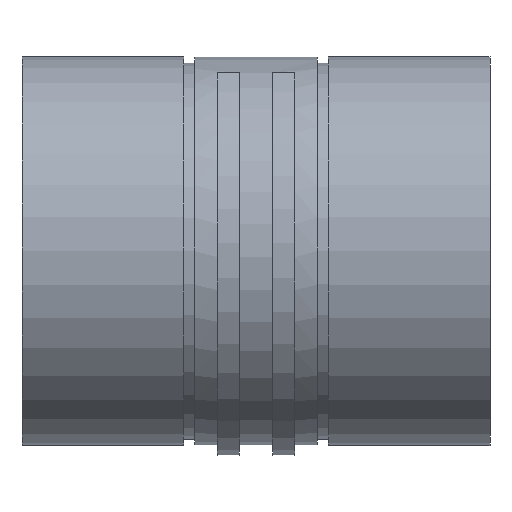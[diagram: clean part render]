
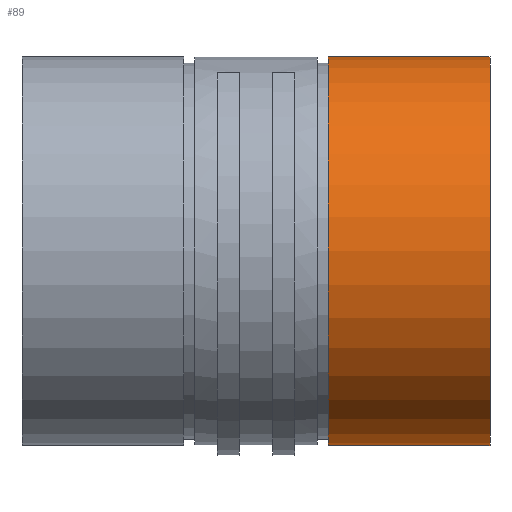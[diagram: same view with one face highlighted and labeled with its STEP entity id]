
A CAD part, front view. The second image highlights one B-rep face of the part: STEP entity #89.
In plain terms, the highlighted cylindrical face has radius 17.45 mm (diameter 34.9 mm), a full revolution.
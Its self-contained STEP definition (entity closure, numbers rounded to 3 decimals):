
#89 = ADVANCED_FACE( '', ( #139, #140 ), #141, .T. );
#139 = FACE_OUTER_BOUND( '', #209, .T. );
#140 = FACE_OUTER_BOUND( '', #210, .T. );
#141 = CYLINDRICAL_SURFACE( '', #211, 17.45 );
#209 = EDGE_LOOP( '', ( #334 ) );
#210 = EDGE_LOOP( '', ( #335 ) );
#211 = AXIS2_PLACEMENT_3D( '', #336, #337, #338 );
#334 = ORIENTED_EDGE( '', *, *, #432, .T. );
#335 = ORIENTED_EDGE( '', *, *, #431, .F. );
#336 = CARTESIAN_POINT( '', ( -60., 0., 0. ) );
#337 = DIRECTION( '', ( 1., 0., 0. ) );
#338 = DIRECTION( '', ( 0., 0., 1. ) );
#431 = EDGE_CURVE( '', #494, #494, #495, .T. );
#432 = EDGE_CURVE( '', #496, #496, #497, .T. );
#494 = VERTEX_POINT( '', #582 );
#495 = CIRCLE( '', #583, 17.45 );
#496 = VERTEX_POINT( '', #584 );
#497 = CIRCLE( '', #585, 17.45 );
#582 = CARTESIAN_POINT( '', ( 6.5, 0., 17.45 ) );
#583 = AXIS2_PLACEMENT_3D( '', #661, #662, #663 );
#584 = CARTESIAN_POINT( '', ( 21., 0., 17.45 ) );
#585 = AXIS2_PLACEMENT_3D( '', #664, #665, #666 );
#661 = CARTESIAN_POINT( '', ( 6.5, 0., 0. ) );
#662 = DIRECTION( '', ( -1., 0., 0. ) );
#663 = DIRECTION( '', ( 0., 0., 1. ) );
#664 = CARTESIAN_POINT( '', ( 21., 0., 0. ) );
#665 = DIRECTION( '', ( -1., 0., 0. ) );
#666 = DIRECTION( '', ( 0., 0., 1. ) );
